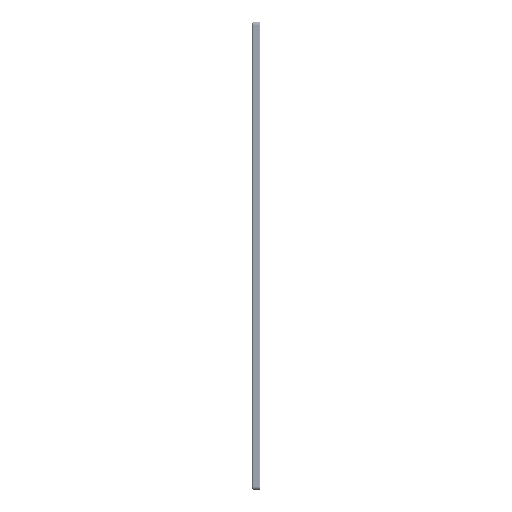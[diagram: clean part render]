
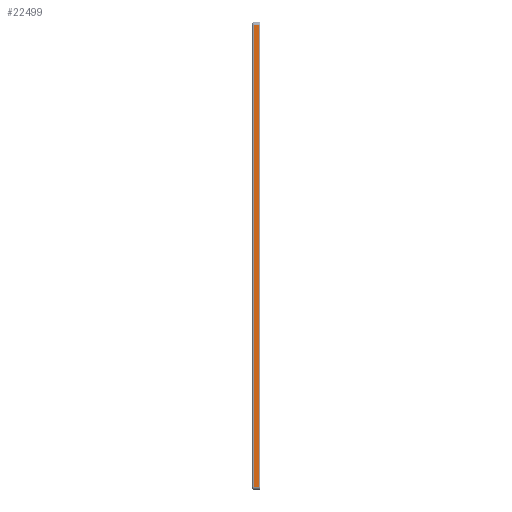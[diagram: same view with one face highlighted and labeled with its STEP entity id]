
A CAD part, left-side view. The second image highlights one B-rep face of the part: STEP entity #22499.
In plain terms, the highlighted planar face has unit normal (-1, 0, 0).
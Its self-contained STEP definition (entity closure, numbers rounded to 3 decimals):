
#920 = CARTESIAN_POINT ( 'NONE',  ( -450., 1., -370. ) ) ;
#926 = CARTESIAN_POINT ( 'NONE',  ( -450., 10., -370. ) ) ;
#932 = CARTESIAN_POINT ( 'NONE',  ( -450., 10., 370. ) ) ;
#933 = CARTESIAN_POINT ( 'NONE',  ( -450., 1., 370. ) ) ;
#8367 = PLANE ( 'NONE',  #8911 ) ;
#8370 = CARTESIAN_POINT ( 'NONE',  ( -450., 13., 375. ) ) ;
#8377 = DIRECTION ( 'NONE',  ( 1., 0., 0. ) ) ;
#8379 = DIRECTION ( 'NONE',  ( 0., 0., -1. ) ) ;
#8911 = AXIS2_PLACEMENT_3D ( 'NONE', #8370, #8377, #8379 ) ;
#9950 = FACE_OUTER_BOUND ( 'NONE', #34662, .T. ) ;
#22499 = ADVANCED_FACE ( 'NONE', ( #9950 ), #8367, .F. ) ;
#22638 = EDGE_CURVE ( 'NONE', #34729, #34742, #29198, .T. ) ;
#22640 = EDGE_CURVE ( 'NONE', #34735, #34729, #29208, .T. ) ;
#22641 = EDGE_CURVE ( 'NONE', #34742, #34741, #29207, .T. ) ;
#22643 = EDGE_CURVE ( 'NONE', #34741, #34735, #29211, .T. ) ;
#28361 = CARTESIAN_POINT ( 'NONE',  ( -450., 13., 370. ) ) ;
#28369 = CARTESIAN_POINT ( 'NONE',  ( -450., 1., 375. ) ) ;
#28370 = DIRECTION ( 'NONE',  ( 0., 0., 1. ) ) ;
#28375 = CARTESIAN_POINT ( 'NONE',  ( -450., 13., -370. ) ) ;
#28376 = DIRECTION ( 'NONE',  ( 0., -1., 0. ) ) ;
#28378 = DIRECTION ( 'NONE',  ( 0., 1., 0. ) ) ;
#28383 = CARTESIAN_POINT ( 'NONE',  ( -450., 10., 375. ) ) ;
#28384 = DIRECTION ( 'NONE',  ( 0., 0., -1. ) ) ;
#29198 = LINE ( 'NONE', #28369, #29202 ) ;
#29202 = VECTOR ( 'NONE', #28370, 1000. ) ;
#29206 = VECTOR ( 'NONE', #28376, 1000. ) ;
#29207 = LINE ( 'NONE', #28361, #29210 ) ;
#29208 = LINE ( 'NONE', #28375, #29206 ) ;
#29210 = VECTOR ( 'NONE', #28378, 1000. ) ;
#29211 = LINE ( 'NONE', #28383, #29213 ) ;
#29213 = VECTOR ( 'NONE', #28384, 1000. ) ;
#34619 = ORIENTED_EDGE ( 'NONE', *, *, #22641, .T. ) ;
#34620 = ORIENTED_EDGE ( 'NONE', *, *, #22640, .T. ) ;
#34621 = ORIENTED_EDGE ( 'NONE', *, *, #22638, .T. ) ;
#34622 = ORIENTED_EDGE ( 'NONE', *, *, #22643, .T. ) ;
#34662 = EDGE_LOOP ( 'NONE', ( #34620, #34621, #34619, #34622 ) ) ;
#34729 = VERTEX_POINT ( 'NONE', #920 ) ;
#34735 = VERTEX_POINT ( 'NONE', #926 ) ;
#34741 = VERTEX_POINT ( 'NONE', #932 ) ;
#34742 = VERTEX_POINT ( 'NONE', #933 ) ;
